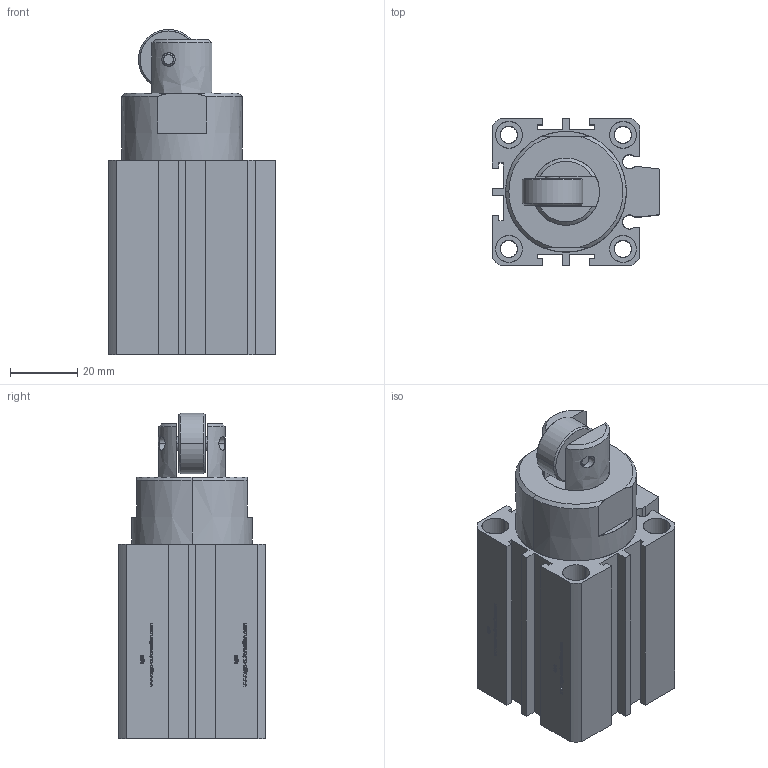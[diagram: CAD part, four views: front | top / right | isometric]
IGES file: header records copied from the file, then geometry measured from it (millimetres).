
Start section: SolidWorks IGES file using analytic representation for surfaces
Global section: file name: C:\Documents and Settings\admin\Bureau\stage de yaya\Plan Philippe Pince\PINCE\VUSB\pièces en 3D\VUSB STEP\ELOC-3DWG\ELOC-32-10-TIGE ENTREE.IGS; native system: SolidWorks 2007; preprocessor: SolidWorks 2007; author: admin; date: 080327.145445; units: millimetre
Bounding box: 50 x 44 x 97 mm (x, y, z)
Surface area: 35274.6 mm2 (no closed solid volume)
Topology: 0 solids, 0 shells, 1184 faces, 13831 edges, 13868 vertices
Faces by surface type: bspline 1121, revolution 63
